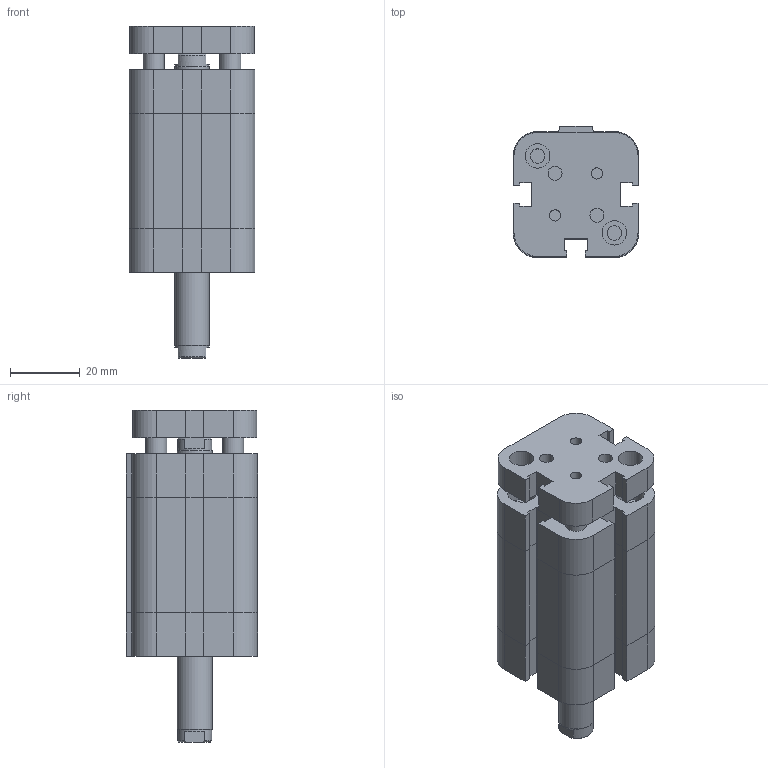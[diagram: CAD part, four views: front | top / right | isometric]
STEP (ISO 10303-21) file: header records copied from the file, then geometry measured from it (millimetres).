
FILE_DESCRIPTION((''),'2;1');
FILE_NAME('I:\Area Tecnica\Disegni\VARIE-3D\Componenti\EUROPE\15##_###_####_08_#\1581_20_0020_08_1.iam.stp','2009-04-20T15:30:20',(''),(''),'Autodesk Inventor 2009','Autodesk Inventor 2009','');
FILE_SCHEMA(('AUTOMOTIVE_DESIGN { 1 0 10303 214 1 1 1 1 }'));
Length unit declared in the file: millimetre
Products named in the file (3): 1581_20_0020_08_1; 1581_20_0020_08_1_C; 1561_20_0020_08_1_SA
Assembly tree (2 placements, depth 2):
  1581_20_0020_08_1
    1581_20_0020_08_1_C
    1561_20_0020_08_1_SA
Bounding box: 36 x 37.5 x 95 mm (x, y, z)
Volume: 76595.3 mm3; surface area: 25328.3 mm2
Topology: 2 solids, 2 shells, 209 faces, 490 edges, 306 vertices
Faces by surface type: plane 135, bspline 47, cylinder 21, cone 6
Full cylindrical faces by diameter (mm): 6 x2, 9.8 x2, 10 x1
Entity records: 6154 total; most frequent: CARTESIAN_POINT 1453, ORIENTED_EDGE 884, DIRECTION 862, EDGE_CURVE 442, VECTOR 340, LINE 340, VERTEX_POINT 290, EDGE_LOOP 276
